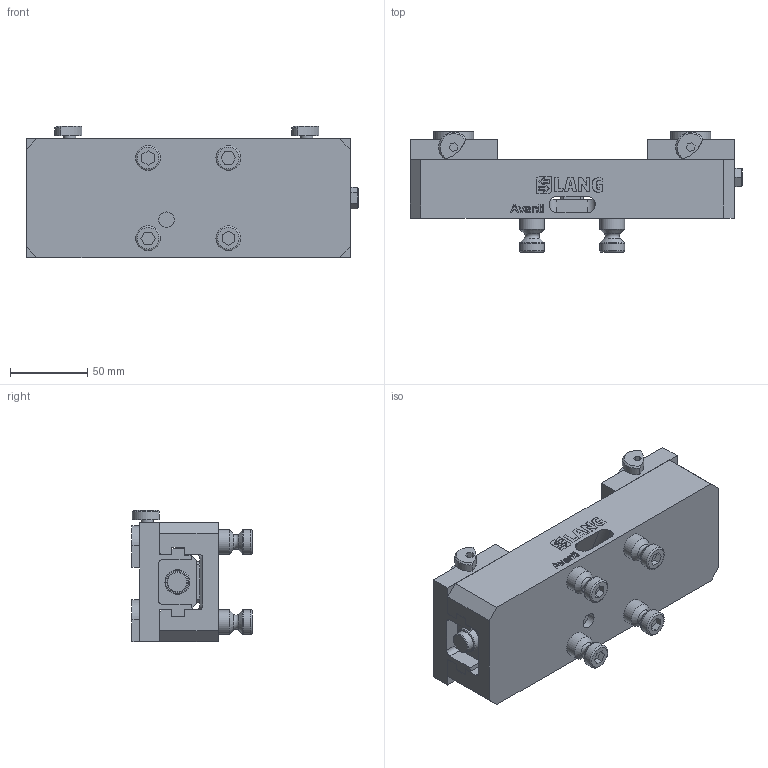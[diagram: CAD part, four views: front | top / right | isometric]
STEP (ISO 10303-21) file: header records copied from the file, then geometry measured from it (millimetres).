
FILE_DESCRIPTION (( 'STEP AP214' ), '1' );
FILE_NAME ('44200-77.STEP', '2020-02-07T15:11:41', ( '' ), ( '' ), 'SwSTEP 2.0', 'SolidWorks 2019', '' );
FILE_SCHEMA (( 'AUTOMOTIVE_DESIGN' ));
Length unit declared in the file: millimetre
Products named in the file (3): 44200-77; Avanti_44200-77; 44771-77
Assembly tree (3 placements, depth 2):
  44200-77
    Avanti_44200-77
    44771-77  x2
Bounding box: 215.07 x 78 x 85.1 mm (x, y, z)
Volume: 627568.1 mm3; surface area: 136540.8 mm2
Topology: 54 solids, 54 shells, 982 faces, 2492 edges, 1641 vertices
Faces by surface type: plane 753, bspline 132, cylinder 64, cone 21, torus 12
Full cylindrical faces by diameter (mm): 6.8 x4, 8 x2, 10 x1, 12 x8, 13.5 x1, 16 x12
Entity records: 40168 total; most frequent: CARTESIAN_POINT 8493, ORIENTED_EDGE 4514, DIRECTION 3650, EDGE_CURVE 2257, LINE 1854, VECTOR 1854, VERTEX_POINT 1521, EDGE_LOOP 1018
